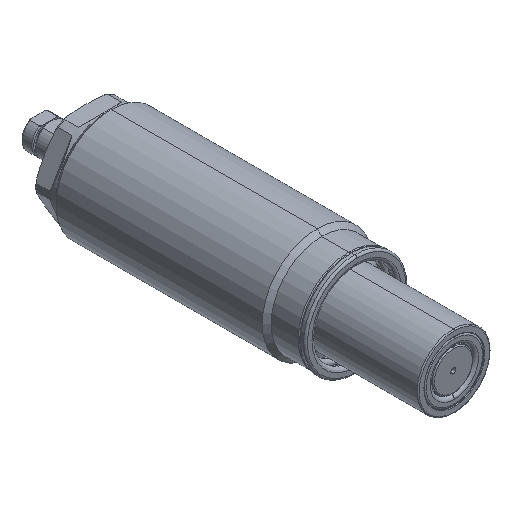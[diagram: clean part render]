
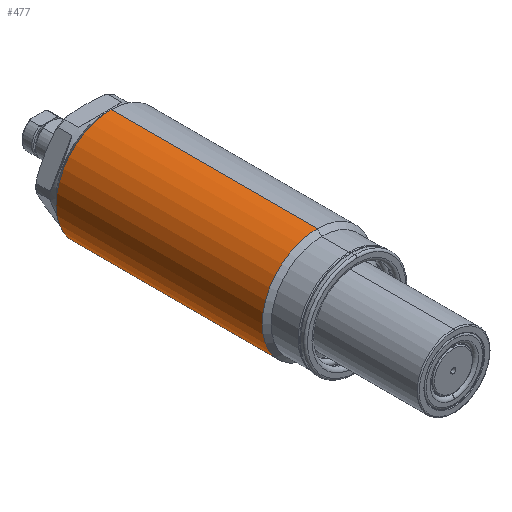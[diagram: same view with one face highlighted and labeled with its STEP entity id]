
A CAD part, isometric view. The second image highlights one B-rep face of the part: STEP entity #477.
In plain terms, the highlighted cylindrical face has radius 11 mm (diameter 22 mm), a partial arc.
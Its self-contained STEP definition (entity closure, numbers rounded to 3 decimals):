
#477=ADVANCED_FACE('',(#690),#572,.T.);
#572=CYLINDRICAL_SURFACE('',#3044,11.);
#690=FACE_OUTER_BOUND('',#869,.T.);
#869=EDGE_LOOP('',(#1608,#1609,#1610,#1611));
#984=LINE('',#4510,#1084);
#985=LINE('',#4511,#1085);
#1084=VECTOR('',#3525,1.);
#1085=VECTOR('',#3526,1.);
#1608=ORIENTED_EDGE('',*,*,#2290,.F.);
#1609=ORIENTED_EDGE('',*,*,#2401,.T.);
#1610=ORIENTED_EDGE('',*,*,#2291,.T.);
#1611=ORIENTED_EDGE('',*,*,#2402,.F.);
#2016=VERTEX_POINT('',#4502);
#2017=VERTEX_POINT('',#4504);
#2018=VERTEX_POINT('',#4508);
#2019=VERTEX_POINT('',#4509);
#2290=EDGE_CURVE('',#2019,#2017,#984,.T.);
#2291=EDGE_CURVE('',#2018,#2016,#985,.T.);
#2401=EDGE_CURVE('',#2019,#2018,#2691,.T.);
#2402=EDGE_CURVE('',#2017,#2016,#2692,.T.);
#2691=CIRCLE('',#3041,11.);
#2692=CIRCLE('',#3043,11.);
#3041=AXIS2_PLACEMENT_3D('',#4902,#3813,#3814);
#3043=AXIS2_PLACEMENT_3D('',#4904,#3817,#3818);
#3044=AXIS2_PLACEMENT_3D('',#4905,#3819,#3820);
#3525=DIRECTION('',(0.,1.,0.));
#3526=DIRECTION('',(0.,1.,0.));
#3813=DIRECTION('',(0.,1.,0.));
#3814=DIRECTION('',(0.,0.,1.));
#3817=DIRECTION('',(0.,1.,0.));
#3818=DIRECTION('',(0.,0.,1.));
#3819=DIRECTION('',(0.,1.,0.));
#3820=DIRECTION('',(0.,0.,-1.));
#4502=CARTESIAN_POINT('',(0.,69.878,11.));
#4504=CARTESIAN_POINT('',(0.,69.878,-11.));
#4508=CARTESIAN_POINT('',(0.,28.678,11.));
#4509=CARTESIAN_POINT('',(0.,28.678,-11.));
#4510=CARTESIAN_POINT('',(0.,102.,-11.));
#4511=CARTESIAN_POINT('',(0.,102.,11.));
#4902=CARTESIAN_POINT('',(0.,28.678,0.));
#4904=CARTESIAN_POINT('',(0.,69.878,0.));
#4905=CARTESIAN_POINT('',(0.,102.,0.));
